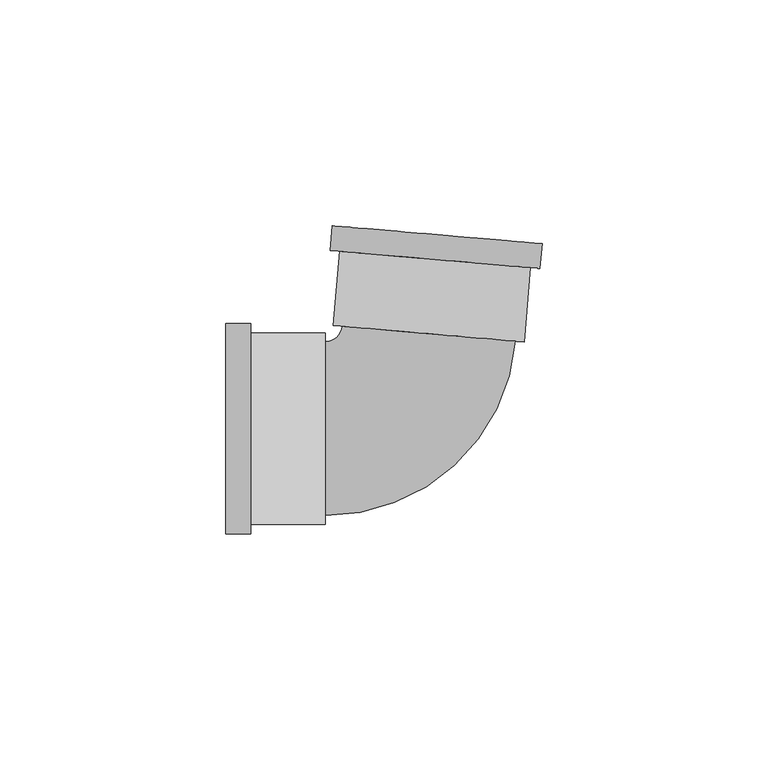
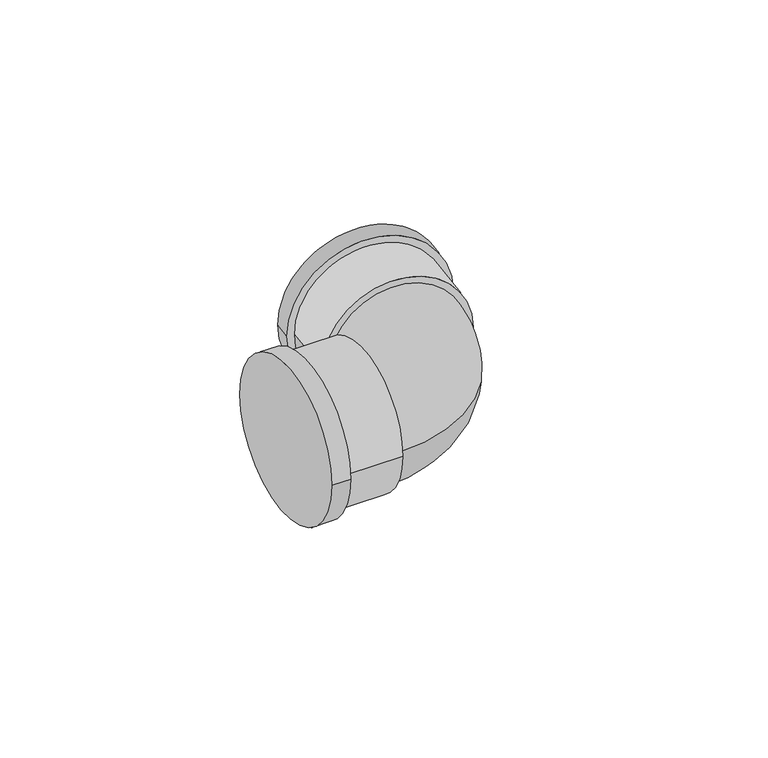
"""IFC4 building model written with IfcOpenShell, lengths in millimetres: pipe fitting geometry, Cotovelo - PVC - CW : Padrão."""

from ifc_helpers import new_model, si_unit, point, frame, origin, place, context, project, spatial, circle_curve, ellipse_curve, trimmed, source, transform, mapped, element, save
from ifc_brep_helpers import plane_surface, cylinder_surface, revolved_surface, advanced_brep


def pipe_fitting_57c65eee(model_context):
    return source(origin(), model_context, "Body", "AdvancedBrep", [
        advanced_brep(
        [(-43.1051548, -23.2925, 0.0), (-43.1051548, 23.2925, 0.0), (-37.6051548, -23.2925, 0.0), (-37.6051548, 23.2925, 0.0), (-37.6051548, -21.175, 0.0), (-37.6051548, 21.175, 0.0), (-21.1051548, 21.175, 0.0), (-21.1051548, -21.175, 0.0), (-21.1051548, -19.25, 0.0), (-21.1051548, 19.25, 0.0), (-17.3689723, 22.6783787, 0.0), (20.9891681, 19.3764002, 0.0), (22.9070751, 19.2113012, 0.0), (-19.2868794, 22.8434776, 0.0), (-19.5097322, 44.9440239, 0.0), (26.9036177, 40.9486298, 0.0), (24.3222088, 35.6505043, 0.0), (-17.8717457, 39.2826807, 0.0), (-19.9814434, 39.4642895, 0.0), (26.4319065, 35.4688955, 0.0)],
        [
            (0, 1, circle_curve(frame((-43.1051548, 0.0, 0.0), z_axis=(-1.0, 0.0, 0.0), x_axis=(0.0, 1.0, 0.0)), 23.2925)),
            (1, 0, circle_curve(frame((-43.1051548, 0.0, 0.0), z_axis=(-1.0, 0.0, 0.0), x_axis=(0.0, 1.0, 0.0)), 23.2925)),
            (2, 3, circle_curve(frame((-37.6051548, 0.0, 0.0), z_axis=(1.0, 0.0, 0.0), x_axis=(0.0, 1.0, 0.0)), 23.2925)),
            (3, 2, circle_curve(frame((-37.6051548, 0.0, 0.0), z_axis=(1.0, 0.0, 0.0), x_axis=(0.0, 1.0, 0.0)), 23.2925)),
            (4, 5, circle_curve(frame((-37.6051548, 0.0, 0.0), z_axis=(-1.0, 0.0, 0.0), x_axis=(0.0, -1.0, 0.0)), 21.175)),
            (5, 4, circle_curve(frame((-37.6051548, 0.0, 0.0), z_axis=(-1.0, 0.0, 0.0), x_axis=(0.0, -1.0, 0.0)), 21.175)),
            (0, 2),
            (3, 1),
            (6, 7, circle_curve(frame((-21.1051548, 0.0, 0.0), z_axis=(1.0, 0.0, 0.0), x_axis=(0.0, -1.0, 0.0)), 21.175)),
            (7, 6, circle_curve(frame((-21.1051548, 0.0, 0.0), z_axis=(1.0, 0.0, 0.0), x_axis=(0.0, -1.0, 0.0)), 21.175)),
            (8, 9, circle_curve(frame((-21.1051548, 0.0, 0.0), z_axis=(-1.0, 0.0, 0.0), x_axis=(0.0, 1.0, 0.0)), 19.25)),
            (9, 8, circle_curve(frame((-21.1051548, 0.0, 0.0), z_axis=(-1.0, 0.0, 0.0), x_axis=(0.0, 1.0, 0.0)), 19.25)),
            (6, 5),
            (4, 7),
            (10, 9, circle_curve(frame((-21.1051548, 23.0, 0.0), z_axis=(0.0, 0.0, -1.0), x_axis=(0.0, -1.0, 0.0)), 3.75)),
            (8, 11, circle_curve(frame((-21.1051548, 23.0, 0.0), z_axis=(0.0, 0.0, 1.0), x_axis=(0.0, -1.0, 0.0)), 42.25)),
            (11, 10, circle_curve(frame((1.8100979, 21.0273894, 0.0), z_axis=(-0.08576567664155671, -0.9963153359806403, 0.0), x_axis=(-0.9963153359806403, 0.08576567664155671, 0.0)), 19.25)),
            (10, 11, circle_curve(frame((1.8100979, 21.0273894, 0.0), z_axis=(-0.08576567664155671, -0.9963153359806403, 0.0), x_axis=(-0.9963153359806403, 0.08576567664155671, 0.0)), 19.25)),
            (12, 13, circle_curve(frame((1.8100979, 21.0273894, 0.0), z_axis=(-0.08576567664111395, -0.9963153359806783, 0.0), x_axis=(-0.9963153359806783, 0.08576567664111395, 0.0)), 21.175)),
            (13, 12, circle_curve(frame((1.8100979, 21.0273894, 0.0), z_axis=(-0.08576567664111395, -0.9963153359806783, 0.0), x_axis=(-0.9963153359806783, 0.08576567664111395, 0.0)), 21.175)),
            (14, 15, circle_curve(frame((3.6969428, 42.9463268, 0.0), z_axis=(0.08576567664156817, 0.9963153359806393, 0.0), x_axis=(0.9963153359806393, -0.08576567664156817, 0.0)), 23.2925)),
            (15, 14, circle_curve(frame((3.6969428, 42.9463268, 0.0), z_axis=(0.08576567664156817, 0.9963153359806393, 0.0), x_axis=(0.9963153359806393, -0.08576567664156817, 0.0)), 23.2925)),
            (12, 16),
            (16, 17, circle_curve(frame((3.2252316, 37.4665925, 0.0), z_axis=(-0.08576567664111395, -0.9963153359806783, 0.0), x_axis=(-0.9963153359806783, 0.08576567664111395, 0.0)), 21.175)),
            (17, 13),
            (17, 16, circle_curve(frame((3.2252316, 37.4665925, 0.0), z_axis=(-0.08576567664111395, -0.9963153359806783, 0.0), x_axis=(-0.9963153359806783, 0.08576567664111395, 0.0)), 21.175)),
            (18, 19, circle_curve(frame((3.2252316, 37.4665925, 0.0), z_axis=(-0.08576567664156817, -0.9963153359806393, 0.0), x_axis=(0.9963153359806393, -0.08576567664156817, 0.0)), 23.2925)),
            (19, 18, circle_curve(frame((3.2252316, 37.4665925, 0.0), z_axis=(-0.08576567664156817, -0.9963153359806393, 0.0), x_axis=(0.9963153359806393, -0.08576567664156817, 0.0)), 23.2925)),
            (14, 18),
            (19, 15),
        ],
        [
            plane_surface(frame((-43.1051548, 0.0, 0.0), z_axis=(-1.0, 0.0, 0.0), x_axis=(0.0, 0.0, 1.0))),
            plane_surface(frame((-37.6051548, 0.0, 0.0), z_axis=(1.0, 0.0, 0.0), x_axis=(0.0, 0.0, 1.0))),
            cylinder_surface(frame((-43.1051548, 0.0, 0.0), z_axis=(-1.0, 0.0, 0.0), x_axis=(0.0, 1.0, 0.0)), 23.2925),
            plane_surface(frame((-21.1051548, 0.0, 0.0), z_axis=(1.0, 0.0, 0.0), x_axis=(0.0, 0.0, 1.0))),
            cylinder_surface(frame((-21.1051548, 0.0, 0.0), z_axis=(1.0, 0.0, 0.0), x_axis=(0.0, -1.0, 0.0)), 21.175),
            revolved_surface(trimmed(ellipse_curve(frame((-21.1051548, 0.0, 0.0), z_axis=(-1.0, 0.0, 0.0), x_axis=(0.0, 1.0, 0.0)), 19.25, 19.25), [point((-21.1051548, -19.25, 0.0))], [point((-21.1051548, 19.25, 0.0))], True, "CARTESIAN"), (-21.1051548, 23.0, 0.0), (0.0, 0.0, 1.0)),
            revolved_surface(trimmed(ellipse_curve(frame((-21.1051548, 0.0, 0.0), z_axis=(-1.0, 0.0, 0.0), x_axis=(0.0, 1.0, 0.0)), 19.25, 19.25), [point((-21.1051548, 19.25, 0.0))], [point((-21.1051548, -19.25, 0.0))], True, "CARTESIAN"), (-21.1051548, 23.0, 0.0), (0.0, 0.0, 1.0)),
            plane_surface(frame((1.8100979, 21.0273894, 0.0), z_axis=(-0.08576567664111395, -0.9963153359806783, 0.0), x_axis=(0.0, 0.0, 1.0))),
            plane_surface(frame((3.6969428, 42.9463268, 0.0), z_axis=(0.08576567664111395, 0.9963153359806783, 0.0), x_axis=(0.0, 0.0, 1.0))),
            cylinder_surface(frame((1.8100979, 21.0273894, 0.0), z_axis=(-0.08576567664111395, -0.9963153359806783, 0.0), x_axis=(-0.9963153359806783, 0.08576567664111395, 0.0)), 21.175),
            plane_surface(frame((3.2252316, 37.4665925, 0.0), z_axis=(-0.08576567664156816, -0.9963153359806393, 0.0), x_axis=(0.0, 0.0, 1.0))),
            cylinder_surface(frame((3.6969428, 42.9463268, 0.0), z_axis=(0.08576567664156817, 0.9963153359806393, 0.0), x_axis=(0.9963153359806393, -0.08576567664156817, 0.0)), 23.2925),
        ],
        [
            (0, [[1, 2]]),
            (1, [[3, 4], [5, 6]]),
            (2, [[-1, 7, -4, 8]]),
            (2, [[-2, -8, -3, -7]]),
            (3, [[9, 10], [11, 12]]),
            (4, [[-9, 13, -5, 14]]),
            (4, [[-10, -14, -6, -13]]),
            (5, [[15, -11, 16, 17]]),
            (6, [[-15, 18, -16, -12]]),
            (7, [[19, 20], [-17, -18]]),
            (8, [[21, 22]]),
            (9, [[-19, 23, 24, 25]]),
            (9, [[-20, -25, 26, -23]]),
            (10, [[27, 28], [-24, -26]]),
            (11, [[-21, 29, -28, 30]]),
            (11, [[-22, -30, -27, -29]]),
        ],
    ),
    ])


if __name__ == "__main__":
    model = new_model("IFC4")
    model_context = context("Model", 3, world=origin())
    ifc_project = project(units=[si_unit("LENGTHUNIT", "METRE", prefix="MILLI")], contexts=[model_context])
    site = spatial("IfcSite", under=ifc_project)
    building = spatial("IfcBuilding", under=site)
    placement = place(None, origin())
    pipe_fitting_shape = pipe_fitting_57c65eee(model_context)
    element("IfcPipeFitting", 1, ObjectType="Cotovelo - PVC - CW : Padrão", at=placement, inside=building, context=model_context, shape_type="MappedRepresentation", body=[
        mapped(pipe_fitting_shape, transform((0.0, 0.0, 0.0), x_axis=(1.0, 0.0, 0.0), y_axis=(0.0, 1.0, 0.0), z_axis=(0.0, 0.0, 1.0))),
    ])
    save(model, "model.ifc")
